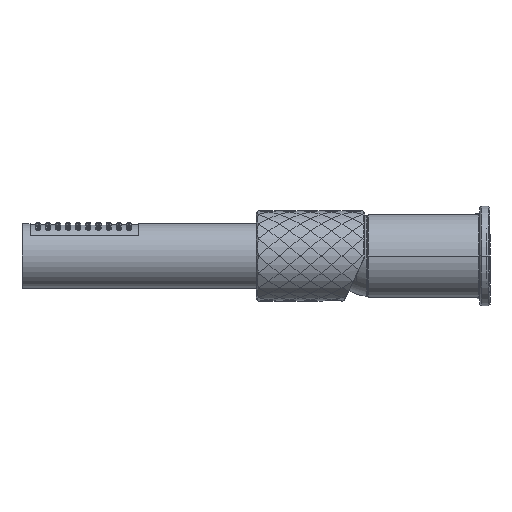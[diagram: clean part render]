
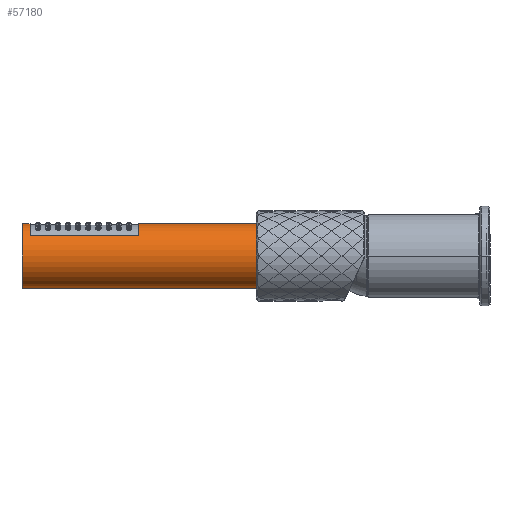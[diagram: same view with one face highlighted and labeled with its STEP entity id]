
A CAD part, left-side view. The second image highlights one B-rep face of the part: STEP entity #57180.
In plain terms, the highlighted cylindrical face has radius 16 mm (diameter 32 mm), a partial arc.
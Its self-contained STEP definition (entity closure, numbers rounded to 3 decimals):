
#51042=CARTESIAN_POINT('',(0.,20.8,0.));
#51043=DIRECTION('',(0.,-1.,0.));
#51044=DIRECTION('',(0.,0.,1.));
#51045=AXIS2_PLACEMENT_3D('',#51042,#51043,#51044);
#51047=DIRECTION('',(0.,1.,0.));
#51048=VECTOR('',#51047,211.4);
#51049=CARTESIAN_POINT('',(0.,20.8,-16.));
#51050=LINE('',#51049,#51048);
#51051=CARTESIAN_POINT('',(0.,232.2,0.));
#51052=DIRECTION('',(0.,1.,0.));
#51053=DIRECTION('',(0.,0.,-1.));
#51054=AXIS2_PLACEMENT_3D('',#51051,#51052,#51053);
#51056=CARTESIAN_POINT('',(0.,228.5,0.));
#51057=DIRECTION('',(0.,1.,0.));
#51058=DIRECTION('',(-0.766,0.,0.643));
#51059=AXIS2_PLACEMENT_3D('',#51056,#51057,#51058);
#51061=DIRECTION('',(0.,1.,0.));
#51062=VECTOR('',#51061,54.);
#51063=CARTESIAN_POINT('',(-12.257,174.5,10.285));
#51064=LINE('',#51063,#51062);
#51065=CARTESIAN_POINT('',(0.,174.5,0.));
#51066=DIRECTION('',(0.,1.,0.));
#51067=DIRECTION('',(-0.766,0.,0.643));
#51068=AXIS2_PLACEMENT_3D('',#51065,#51066,#51067);
#51105=DIRECTION('',(0.,1.,0.));
#51106=VECTOR('',#51105,153.7);
#51107=CARTESIAN_POINT('',(0.,20.8,16.));
#51108=LINE('',#51107,#51106);
#51123=DIRECTION('',(0.,1.,0.));
#51124=VECTOR('',#51123,3.7);
#51125=CARTESIAN_POINT('',(0.,228.5,16.));
#51126=LINE('',#51125,#51124);
#56083=CARTESIAN_POINT('',(-12.257,228.5,10.285));
#56084=CARTESIAN_POINT('',(0.,228.5,16.));
#56085=VERTEX_POINT('',#56083);
#56086=VERTEX_POINT('',#56084);
#56087=CARTESIAN_POINT('',(-12.257,174.5,10.285));
#56088=CARTESIAN_POINT('',(0.,174.5,16.));
#56089=VERTEX_POINT('',#56087);
#56090=VERTEX_POINT('',#56088);
#56727=CARTESIAN_POINT('',(0.,20.8,-16.));
#56728=CARTESIAN_POINT('',(0.,20.8,16.));
#56729=VERTEX_POINT('',#56727);
#56730=VERTEX_POINT('',#56728);
#56735=CARTESIAN_POINT('',(0.,232.2,16.));
#56736=CARTESIAN_POINT('',(0.,232.2,-16.));
#56737=VERTEX_POINT('',#56735);
#56738=VERTEX_POINT('',#56736);
#57158=CARTESIAN_POINT('',(0.,20.5,0.));
#57159=DIRECTION('',(0.,1.,0.));
#57160=DIRECTION('',(0.,0.,-1.));
#57161=AXIS2_PLACEMENT_3D('',#57158,#57159,#57160);
#57162=CYLINDRICAL_SURFACE('',#57161,16.);
#57164=ORIENTED_EDGE('',*,*,#57163,.T.);
#57166=ORIENTED_EDGE('',*,*,#57165,.T.);
#57168=ORIENTED_EDGE('',*,*,#57167,.T.);
#57170=ORIENTED_EDGE('',*,*,#57169,.F.);
#57171=ORIENTED_EDGE('',*,*,#57146,.F.);
#57173=ORIENTED_EDGE('',*,*,#57172,.F.);
#57175=ORIENTED_EDGE('',*,*,#57174,.T.);
#57177=ORIENTED_EDGE('',*,*,#57176,.F.);
#57178=EDGE_LOOP('',(#57164,#57166,#57168,#57170,#57171,#57173,#57175,#57177));
#57179=FACE_OUTER_BOUND('',#57178,.F.);
#57180=ADVANCED_FACE('',(#57179),#57162,.T.);
#51046=CIRCLE('',#51045,16.);
#51055=CIRCLE('',#51054,16.);
#51060=CIRCLE('',#51059,16.);
#51069=CIRCLE('',#51068,16.);
#57146=EDGE_CURVE('',#56085,#56086,#51060,.T.);
#57163=EDGE_CURVE('',#56730,#56729,#51046,.T.);
#57165=EDGE_CURVE('',#56729,#56738,#51050,.T.);
#57167=EDGE_CURVE('',#56738,#56737,#51055,.T.);
#57169=EDGE_CURVE('',#56086,#56737,#51126,.T.);
#57172=EDGE_CURVE('',#56089,#56085,#51064,.T.);
#57174=EDGE_CURVE('',#56089,#56090,#51069,.T.);
#57176=EDGE_CURVE('',#56730,#56090,#51108,.T.);
